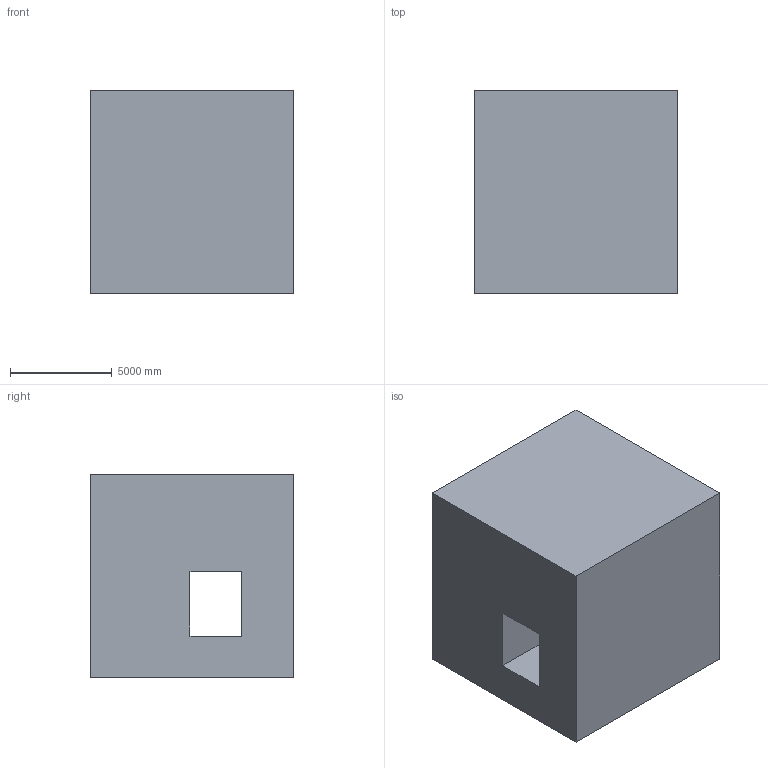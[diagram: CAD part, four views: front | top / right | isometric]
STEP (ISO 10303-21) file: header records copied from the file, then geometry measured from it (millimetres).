
FILE_DESCRIPTION (( 'STEP AP203' ), '1' );
FILE_NAME ('116.STEP', '2022-07-28T13:39:19', ( 'user' ), ( '' ), 'SwSTEP 2.0', 'SolidWorks 2021', '' );
FILE_SCHEMA (( 'CONFIG_CONTROL_DESIGN' ));
Length unit declared in the file: centimetre
Products named in the file (1): 116
Bounding box: 10000 x 10000 x 10000 mm (x, y, z)
Volume: 847064006794.1 mm3; surface area: 667550958.2 mm2
Topology: 1 solids, 1 shells, 12 faces, 33 edges, 22 vertices
Faces by surface type: plane 11, cylinder 1
Entity records: 462 total; most frequent: CARTESIAN_POINT 68, ORIENTED_EDGE 66, DIRECTION 63, EDGE_CURVE 33, VECTOR 29, LINE 29, VERTEX_POINT 22, AXIS2_PLACEMENT_3D 17
